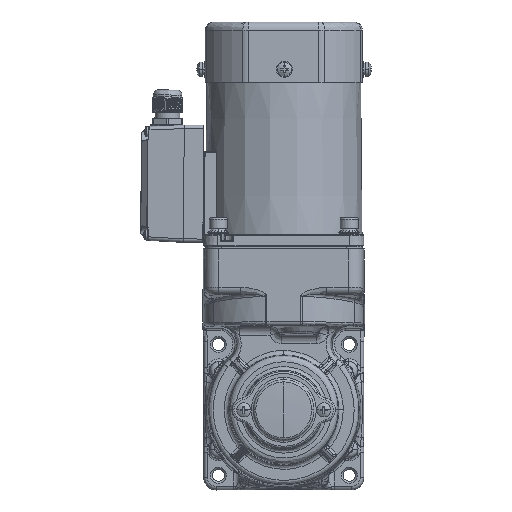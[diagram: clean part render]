
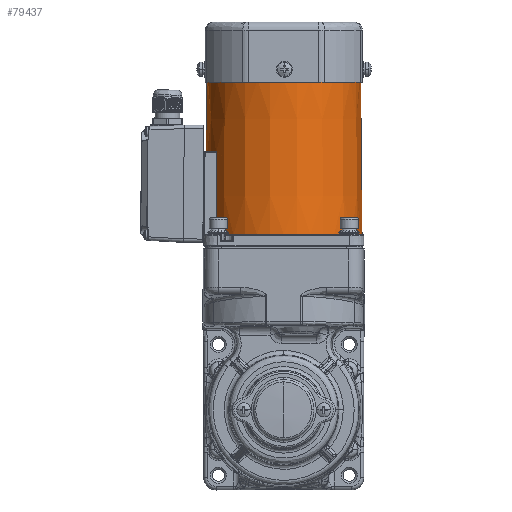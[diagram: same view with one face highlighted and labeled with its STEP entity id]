
A CAD part, left-side view. The second image highlights one B-rep face of the part: STEP entity #79437.
In plain terms, the highlighted conical face has half-angle 0.5 degrees and reference radius 44 mm.
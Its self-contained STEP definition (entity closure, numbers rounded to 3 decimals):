
#2089 = CARTESIAN_POINT ( 'NONE',  ( 41.165, -23.161, 154.584 ) ) ;
#4035 = AXIS2_PLACEMENT_3D ( 'NONE', #69096, #87118, #22144 ) ;
#4194 = DIRECTION ( 'NONE',  ( 1., 0., 0. ) ) ;
#8145 = VERTEX_POINT ( 'NONE', #109196 ) ;
#10054 = DIRECTION ( 'NONE',  ( 0.009, 0., 1. ) ) ;
#12322 = CARTESIAN_POINT ( 'NONE',  ( 41.177, -23.139, 154.563 ) ) ;
#12732 = ORIENTED_EDGE ( 'NONE', *, *, #55501, .F. ) ;
#12900 = CARTESIAN_POINT ( 'NONE',  ( 41.159, -23.171, 154.593 ) ) ;
#17098 = CARTESIAN_POINT ( 'NONE',  ( 3.243, -1.657, 114. ) ) ;
#18013 = CARTESIAN_POINT ( 'NONE',  ( 41.281, -22.954, 154.5 ) ) ;
#19091 = CARTESIAN_POINT ( 'NONE',  ( 47.243, -1.657, 201. ) ) ;
#19782 = EDGE_LOOP ( 'NONE', ( #37781, #32267, #117499, #88651, #12732, #35869, #74357 ) ) ;
#20170 = CARTESIAN_POINT ( 'NONE',  ( 41.166, -23.159, 154.581 ) ) ;
#20305 = VERTEX_POINT ( 'NONE', #18013 ) ;
#21348 = CARTESIAN_POINT ( 'NONE',  ( 41.192, -23.114, 154.544 ) ) ;
#22144 = DIRECTION ( 'NONE',  ( 1., 0., 0. ) ) ;
#24031 = CONICAL_SURFACE ( 'NONE', #39416, 44., 0.009 ) ;
#25097 = EDGE_CURVE ( 'NONE', #45509, #82313, #58036, .T. ) ;
#26058 = EDGE_CURVE ( 'NONE', #8145, #48157, #109942, .T. ) ;
#29204 = CARTESIAN_POINT ( 'NONE',  ( 41.114, -23.253, 154.759 ) ) ;
#30379 = CARTESIAN_POINT ( 'NONE',  ( 41.253, -23.003, 154.5 ) ) ;
#31182 = EDGE_CURVE ( 'NONE', #84049, #89849, #117367, .T. ) ;
#32267 = ORIENTED_EDGE ( 'NONE', *, *, #58587, .T. ) ;
#34575 = DIRECTION ( 'NONE',  ( 1., 0., 0. ) ) ;
#35869 = ORIENTED_EDGE ( 'NONE', *, *, #31182, .T. ) ;
#36595 = DIRECTION ( 'NONE',  ( 0., 0., -1. ) ) ;
#37781 = ORIENTED_EDGE ( 'NONE', *, *, #25097, .F. ) ;
#38831 = CARTESIAN_POINT ( 'NONE',  ( 41.114, -23.254, 154.797 ) ) ;
#39416 = AXIS2_PLACEMENT_3D ( 'NONE', #49377, #68027, #4194 ) ;
#45509 = VERTEX_POINT ( 'NONE', #113960 ) ;
#48157 = VERTEX_POINT ( 'NONE', #89755 ) ;
#48315 = EDGE_CURVE ( 'NONE', #89849, #82313, #118106, .T. ) ;
#48951 = CARTESIAN_POINT ( 'NONE',  ( 41.348, -23.657, 201. ) ) ;
#49377 = CARTESIAN_POINT ( 'NONE',  ( 3.243, -1.657, 201. ) ) ;
#49515 = CARTESIAN_POINT ( 'NONE',  ( 41.348, -23.657, 201. ) ) ;
#49633 = CARTESIAN_POINT ( 'NONE',  ( 41.23, -23.046, 154.512 ) ) ;
#54056 = CIRCLE ( 'NONE', #4035, 43.594 ) ;
#55501 = EDGE_CURVE ( 'NONE', #84049, #20305, #114256, .T. ) ;
#55867 = DIRECTION ( 'NONE',  ( 1., 0., 0. ) ) ;
#56901 = CARTESIAN_POINT ( 'NONE',  ( 41.281, -22.954, 154.5 ) ) ;
#58036 = LINE ( 'NONE', #94703, #105855 ) ;
#58587 = EDGE_CURVE ( 'NONE', #45509, #8145, #114541, .T. ) ;
#59155 = CARTESIAN_POINT ( 'NONE',  ( 41.192, -23.388, 170.198 ) ) ;
#59798 = DIRECTION ( 'NONE',  ( -0.009, 0., 1. ) ) ;
#60746 = AXIS2_PLACEMENT_3D ( 'NONE', #17098, #64661, #34575 ) ;
#60934 = VECTOR ( 'NONE', #10054, 1000. ) ;
#64661 = DIRECTION ( 'NONE',  ( 0., 0., 1. ) ) ;
#65426 = EDGE_CURVE ( 'NONE', #48157, #20305, #54056, .T. ) ;
#65935 = CARTESIAN_POINT ( 'NONE',  ( 41.162, -23.165, 154.587 ) ) ;
#67701 = CARTESIAN_POINT ( 'NONE',  ( 41.152, -23.184, 154.607 ) ) ;
#68027 = DIRECTION ( 'NONE',  ( 0., 0., 1. ) ) ;
#69096 = CARTESIAN_POINT ( 'NONE',  ( 3.243, -1.657, 154.5 ) ) ;
#74357 = ORIENTED_EDGE ( 'NONE', *, *, #48315, .T. ) ;
#79437 = ADVANCED_FACE ( 'NONE', ( #86049 ), #24031, .T. ) ;
#82313 = VERTEX_POINT ( 'NONE', #85509 ) ;
#84049 = VERTEX_POINT ( 'NONE', #90216 ) ;
#84545 = CARTESIAN_POINT ( 'NONE',  ( 41.118, -23.246, 154.72 ) ) ;
#85509 = CARTESIAN_POINT ( 'NONE',  ( -40.757, -1.657, 201. ) ) ;
#86049 = FACE_OUTER_BOUND ( 'NONE', #19782, .T. ) ;
#87118 = DIRECTION ( 'NONE',  ( 0., 0., -1. ) ) ;
#87352 = AXIS2_PLACEMENT_3D ( 'NONE', #101546, #36595, #55867 ) ;
#87383 = CARTESIAN_POINT ( 'NONE',  ( 41.27, -23.522, 185.599 ) ) ;
#88651 = ORIENTED_EDGE ( 'NONE', *, *, #65426, .T. ) ;
#89755 = CARTESIAN_POINT ( 'NONE',  ( 46.837, -1.657, 154.5 ) ) ;
#89849 = VERTEX_POINT ( 'NONE', #49515 ) ;
#90216 = CARTESIAN_POINT ( 'NONE',  ( 41.114, -23.254, 154.797 ) ) ;
#94703 = CARTESIAN_POINT ( 'NONE',  ( -40.757, -1.657, 201. ) ) ;
#95324 = CARTESIAN_POINT ( 'NONE',  ( 41.147, -23.193, 154.619 ) ) ;
#101546 = CARTESIAN_POINT ( 'NONE',  ( 3.243, -1.657, 201. ) ) ;
#104345 = CARTESIAN_POINT ( 'NONE',  ( 41.137, -23.211, 154.645 ) ) ;
#105855 = VECTOR ( 'NONE', #59798, 1000. ) ;
#109196 = CARTESIAN_POINT ( 'NONE',  ( 46.483, -1.657, 114. ) ) ;
#109942 = LINE ( 'NONE', #19091, #60934 ) ;
#113383 = CARTESIAN_POINT ( 'NONE',  ( 41.132, -23.221, 154.663 ) ) ;
#113960 = CARTESIAN_POINT ( 'NONE',  ( -39.998, -1.657, 114. ) ) ;
#114256 = B_SPLINE_CURVE_WITH_KNOTS ( 'NONE', 3,
 ( #38831, #29204, #84545, #113383, #104345, #95324, #67701, #12900, #65935, #2089, #20170, #12322, #21348, #49633, #30379, #56901 ),
 .UNSPECIFIED., .F., .F.,
 ( 4, 2, 2, 1, 1, 2, 2, 2, 4 ),
 ( 0., 0.25, 0.375, 0.438, 0.469, 0.484, 0.5, 0.75, 1. ),
 .UNSPECIFIED. ) ;
#114463 = CARTESIAN_POINT ( 'NONE',  ( 41.114, -23.254, 154.797 ) ) ;
#114541 = CIRCLE ( 'NONE', #60746, 43.241 ) ;
#117367 = B_SPLINE_CURVE_WITH_KNOTS ( 'NONE', 3,
 ( #114463, #59155, #87383, #48951 ),
 .UNSPECIFIED., .F., .F.,
 ( 4, 4 ),
 ( 0., 0.046 ),
 .UNSPECIFIED. ) ;
#117499 = ORIENTED_EDGE ( 'NONE', *, *, #26058, .T. ) ;
#118106 = CIRCLE ( 'NONE', #87352, 44. ) ;
